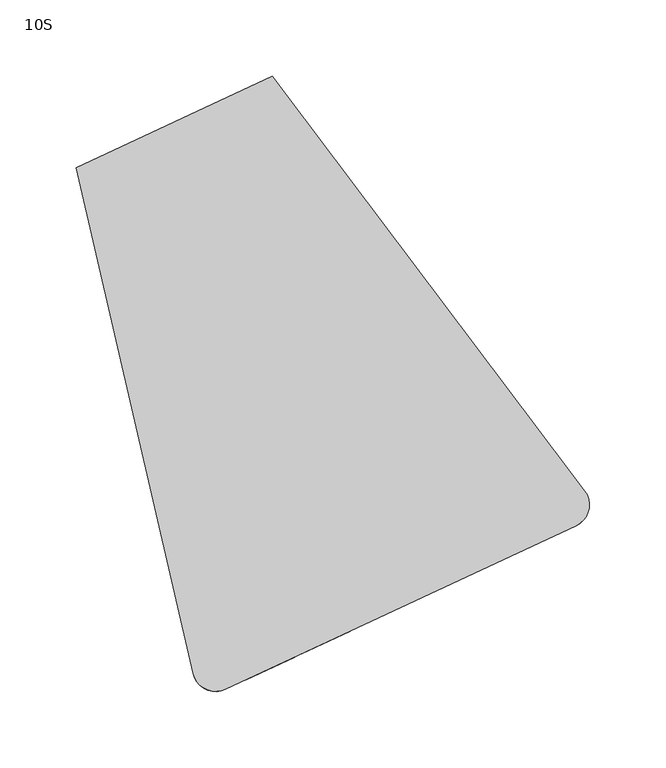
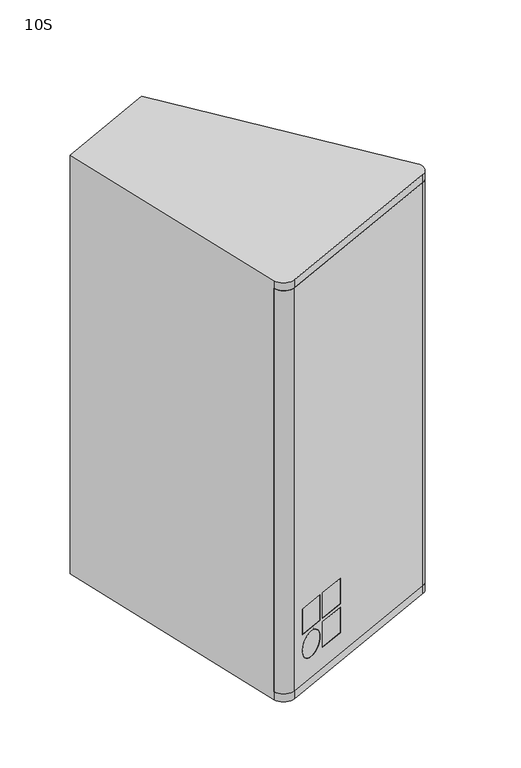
"""IFC4 building model written with IfcOpenShell, lengths in millimetres: proxy geometry, d&b xS-Series 10S Point Source : 10S."""

from ifc_helpers import new_model, si_unit, point, frame, frame_2d, origin, place, context, project, spatial, polyline, circle_curve, trimmed, segment, composite_curve, outline, extrude, source, transform, mapped, element, save
from ifc_brep_helpers import plane_surface, cylinder_surface, revolved_surface, advanced_brep


def proxy_10s_f54c0f71(model_context):
    return source(origin(), model_context, "Body", "SolidModel", [
        extrude(outline(composite_curve([segment(trimmed(circle_curve(frame_2d((182.2455974, -38.5801319)), 10.0), [point((189.5386504, -31.7382479))], [point((186.47178, -47.6432098))], False, "CARTESIAN"), True, "CONTINUOUS"), segment(polyline([(186.47178, -47.6432098), (-42.781571, -154.545803)]), True, "CONTINUOUS"), segment(trimmed(circle_curve(frame_2d((-47.0077536, -145.4827252)), 10.0), [point((-42.781571, -154.545803))], [point((-56.936825, -146.6716496))], False, "CARTESIAN"), True, "CONTINUOUS"), segment(polyline([(-56.936825, -146.6716496), (189.5386504, -31.7382479)]), True, "CONTINUOUS")], self_intersect=False)), frame((0.0, 0.0, -279.0), z_axis=(0.0, 0.0, 1.0), x_axis=(1.0, 0.0, 0.0)), (0.0, 0.0, 1.0), 558.0),
        advanced_brep(
        [(4.6469097, -137.9464289, -175.0), (2.5338184, -133.4148899, -175.0), (2.5338184, -133.4148899, -210.0), (4.6469097, -137.9464289, -210.0), (-29.1869542, -148.2065291, -210.0), (-27.0738629, -152.738068, -210.0), (-29.1869542, -148.2065291, -175.0), (-27.0738629, -152.738068, -175.0), (40.8992212, -121.0416984, -175.0), (38.7861298, -116.5101595, -175.0), (38.7861298, -116.5101595, -210.0), (40.8992212, -121.0416984, -210.0), (7.0653573, -131.3017986, -210.0), (9.1784486, -135.8333376, -210.0), (7.0653573, -131.3017986, -175.0), (9.1784486, -135.8333376, -175.0), (40.8992212, -121.0416984, -215.0), (38.7861298, -116.5101595, -215.0), (38.7861298, -116.5101595, -250.0), (40.8992212, -121.0416984, -250.0), (7.0653573, -131.3017986, -250.0), (9.1784486, -135.8333376, -250.0), (7.0653573, -131.3017986, -215.0), (9.1784486, -135.8333376, -215.0), (-11.2134766, -145.3422485, -250.0), (-13.3265679, -140.8107095, -250.0), (-13.3265679, -140.8107095, -215.0), (-11.2134766, -145.3422485, -215.0), (-40.6684797, -159.077342, 279.0), (188.5848713, -52.1747487, 279.0), (194.22513, -29.5529066, 279.0), (189.5386504, -31.7382479, 279.0), (186.47178, -47.6432098, 279.0), (-42.781571, -154.545803, 279.0), (-56.936825, -146.6716496, 279.0), (-61.6233046, -148.856991, 279.0), (-40.6684797, -159.077342, -279.0), (-61.6233046, -148.856991, -279.0), (-56.936825, -146.6716496, -279.0), (-42.781571, -154.545803, -279.0), (186.47178, -47.6432098, -279.0), (189.5386504, -31.7382479, -279.0), (194.22513, -29.5529066, -279.0), (188.5848713, -52.1747487, -279.0)],
        [
            (0, 1),
            (1, 2),
            (2, 3),
            (3, 0),
            (2, 4),
            (4, 5),
            (5, 3),
            (4, 6),
            (6, 7),
            (7, 5),
            (0, 7),
            (6, 1),
            (8, 9),
            (9, 10),
            (10, 11),
            (11, 8),
            (10, 12),
            (12, 13),
            (13, 11),
            (12, 14),
            (14, 15),
            (15, 13),
            (8, 15),
            (14, 9),
            (16, 17),
            (17, 18),
            (18, 19),
            (19, 16),
            (18, 20),
            (20, 21),
            (21, 19),
            (20, 22),
            (22, 23),
            (23, 21),
            (16, 23),
            (22, 17),
            (24, 25),
            (25, 26, circle_curve(frame((-13.3265679, -140.8107095, -232.5), z_axis=(-0.4226182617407, 0.9063077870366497, 0.0), x_axis=(0.0, 0.0, 1.0)), 17.5)),
            (26, 27),
            (27, 24, circle_curve(frame((-11.2134766, -145.3422485, -232.5), z_axis=(0.4226182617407, -0.9063077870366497, 0.0), x_axis=(0.0, 0.0, 1.0)), 17.5)),
            (24, 27, circle_curve(frame((-11.2134766, -145.3422485, -232.5), z_axis=(0.4226182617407, -0.9063077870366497, 0.0), x_axis=(0.0, 0.0, 1.0)), 17.5)),
            (26, 25, circle_curve(frame((-13.3265679, -140.8107095, -232.5), z_axis=(-0.4226182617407, 0.9063077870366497, 0.0), x_axis=(0.0, 0.0, 1.0)), 17.5)),
            (28, 29),
            (29, 30, circle_curve(frame((182.2455974, -38.5801319, 279.0), z_axis=(0.0, 0.0, 1.0), x_axis=(0.4226182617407, -0.9063077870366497, 0.0)), 15.0)),
            (30, 31),
            (31, 32, circle_curve(frame((182.2455974, -38.5801319, 279.0), z_axis=(0.0, 0.0, -1.0), x_axis=(0.4226182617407, -0.9063077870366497, 0.0)), 10.0)),
            (32, 33),
            (33, 34, circle_curve(frame((-47.0077536, -145.4827252, 279.0), z_axis=(0.0, 0.0, -1.0), x_axis=(0.4226182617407, -0.9063077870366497, 0.0)), 10.0)),
            (34, 35),
            (35, 28, circle_curve(frame((-47.0077536, -145.4827252, 279.0), z_axis=(0.0, 0.0, 1.0), x_axis=(0.4226182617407, -0.9063077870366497, 0.0)), 15.0)),
            (36, 37, circle_curve(frame((-47.0077536, -145.4827252, -279.0), z_axis=(0.0, 0.0, -1.0), x_axis=(0.4226182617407, -0.9063077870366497, 0.0)), 15.0)),
            (37, 38),
            (38, 39, circle_curve(frame((-47.0077536, -145.4827252, -279.0), z_axis=(0.0, 0.0, 1.0), x_axis=(0.4226182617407, -0.9063077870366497, 0.0)), 10.0)),
            (39, 40),
            (40, 41, circle_curve(frame((182.2455974, -38.5801319, -279.0), z_axis=(0.0, 0.0, 1.0), x_axis=(0.4226182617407, -0.9063077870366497, 0.0)), 10.0)),
            (41, 42),
            (42, 43, circle_curve(frame((182.2455974, -38.5801319, -279.0), z_axis=(0.0, 0.0, -1.0), x_axis=(0.4226182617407, -0.9063077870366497, 0.0)), 15.0)),
            (43, 36),
            (28, 36),
            (43, 29),
            (42, 30),
            (41, 31),
            (40, 32),
            (39, 33),
            (38, 34),
            (37, 35),
        ],
        [
            plane_surface(frame((4.6469097, -137.9464289, -210.0), z_axis=(-0.9063077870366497, -0.4226182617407, 0.0), x_axis=(-0.4226182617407, 0.9063077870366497, 0.0))),
            plane_surface(frame((-27.0738629, -152.738068, -210.0), z_axis=(0.0, 0.0, 1.0), x_axis=(-0.4226182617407, 0.9063077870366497, 0.0))),
            plane_surface(frame((-27.0738629, -152.738068, -175.0), z_axis=(0.9063077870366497, 0.4226182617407, 0.0), x_axis=(-0.4226182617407, 0.9063077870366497, 0.0))),
            plane_surface(frame((4.6469097, -137.9464289, -175.0), z_axis=(0.0, 0.0, -1.0), x_axis=(-0.4226182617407, 0.9063077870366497, 0.0))),
            plane_surface(frame((40.8992212, -121.0416984, -210.0), z_axis=(-0.9063077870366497, -0.4226182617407, 0.0), x_axis=(-0.4226182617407, 0.9063077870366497, 0.0))),
            plane_surface(frame((9.1784486, -135.8333376, -210.0), z_axis=(0.0, 0.0, 1.0), x_axis=(-0.4226182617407, 0.9063077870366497, 0.0))),
            plane_surface(frame((9.1784486, -135.8333376, -175.0), z_axis=(0.9063077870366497, 0.4226182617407, 0.0), x_axis=(-0.4226182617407, 0.9063077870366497, 0.0))),
            plane_surface(frame((40.8992212, -121.0416984, -175.0), z_axis=(0.0, 0.0, -1.0), x_axis=(-0.4226182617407, 0.9063077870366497, 0.0))),
            plane_surface(frame((40.8992212, -121.0416984, -250.0), z_axis=(-0.9063077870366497, -0.4226182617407, 0.0), x_axis=(-0.4226182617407, 0.9063077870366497, 0.0))),
            plane_surface(frame((9.1784486, -135.8333376, -250.0), z_axis=(0.0, 0.0, 1.0), x_axis=(-0.4226182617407, 0.9063077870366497, 0.0))),
            plane_surface(frame((9.1784486, -135.8333376, -215.0), z_axis=(0.9063077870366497, 0.4226182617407, 0.0), x_axis=(-0.4226182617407, 0.9063077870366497, 0.0))),
            plane_surface(frame((40.8992212, -121.0416984, -215.0), z_axis=(0.0, 0.0, -1.0), x_axis=(-0.4226182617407, 0.9063077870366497, 0.0))),
            revolved_surface(polyline([(-11.213476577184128, -145.3422484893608, -215.0), (-13.326567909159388, -140.8107095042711, -215.0)]), (-25.0551932, -115.6585914, -232.5), (0.4226182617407, -0.9063077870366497, 0.0)),
            plane_surface(frame((188.5848713, -52.1747487, 279.0), z_axis=(0.0, 0.0, 1.0), x_axis=(0.9063077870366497, 0.4226182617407, 0.0))),
            plane_surface(frame((188.5848713, -52.1747487, -279.0), z_axis=(0.0, 0.0, -1.0), x_axis=(-0.9063077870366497, -0.4226182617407, 0.0))),
            plane_surface(frame((-40.6684797, -159.077342, 279.0), z_axis=(0.4226182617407, -0.9063077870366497, 0.0), x_axis=(0.0, 0.0, -1.0))),
            cylinder_surface(frame((182.2455974, -38.5801319, -279.0), z_axis=(0.0, 0.0, 1.0), x_axis=(0.4226182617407, -0.9063077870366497, 0.0)), 15.0),
            plane_surface(frame((194.22513, -29.5529066, 279.0), z_axis=(-0.42261826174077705, 0.9063077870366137, 0.0), x_axis=(0.0, 0.0, -1.0))),
            revolved_surface(polyline([(186.471780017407, -47.6432097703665, -279.0), (186.471780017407, -47.6432097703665, 279.0)]), (182.2455974, -38.5801319, -279.0), (0.0, 0.0, -1.0)),
            plane_surface(frame((186.47178, -47.6432098, 279.0), z_axis=(-0.4226182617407, 0.9063077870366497, 0.0), x_axis=(0.0, 0.0, -1.0))),
            revolved_surface(polyline([(-42.781570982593, -154.5458030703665, -279.0), (-42.781570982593, -154.5458030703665, 279.0)]), (-47.0077536, -145.4827252, -279.0), (0.0, 0.0, -1.0)),
            plane_surface(frame((-56.936825, -146.6716496, 279.0), z_axis=(-0.4226182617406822, 0.906307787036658, 0.0), x_axis=(0.0, 0.0, -1.0))),
            cylinder_surface(frame((-47.0077536, -145.4827252, -279.0), z_axis=(0.0, 0.0, 1.0), x_axis=(0.4226182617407, -0.9063077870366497, 0.0)), 15.0),
        ],
        [
            (0, [[1, 2, 3, 4]]),
            (1, [[-3, 5, 6, 7]]),
            (2, [[-6, 8, 9, 10]]),
            (3, [[-1, 11, -9, 12]]),
            (4, [[13, 14, 15, 16]]),
            (5, [[-15, 17, 18, 19]]),
            (6, [[-18, 20, 21, 22]]),
            (7, [[-13, 23, -21, 24]]),
            (8, [[25, 26, 27, 28]]),
            (9, [[-27, 29, 30, 31]]),
            (10, [[-30, 32, 33, 34]]),
            (11, [[-25, 35, -33, 36]]),
            (12, [[37, 38, 39, 40]]),
            (12, [[-37, 41, -39, 42]]),
            (13, [[43, 44, 45, 46, 47, 48, 49, 50]]),
            (14, [[51, 52, 53, 54, 55, 56, 57, 58]]),
            (15, [[-43, 59, -58, 60], [-4, -7, -10, -11], [-16, -19, -22, -23], [-28, -31, -34, -35], [-40, -41]]),
            (16, [[-44, -60, -57, 61]]),
            (17, [[-45, -61, -56, 62]]),
            (18, [[-46, -62, -55, 63]]),
            (19, [[-47, -63, -54, 64], [-2, -12, -8, -5], [-14, -24, -20, -17], [-26, -36, -32, -29], [-38, -42]]),
            (20, [[-48, -64, -53, 65]]),
            (21, [[-49, -65, -52, 66]]),
            (22, [[-50, -66, -51, -59]]),
        ],
    ),
        extrude(outline(polyline([(4.6469097, -137.9464289), (-27.0738629, -152.738068), (-29.1869542, -148.2065291), (2.5338184, -133.4148899), (4.6469097, -137.9464289)])), frame((0.0, 0.0, -210.0), z_axis=(0.0, 0.0, 1.0), x_axis=(1.0, 0.0, 0.0)), (0.0, 0.0, 1.0), 35.0),
        extrude(outline(polyline([(40.8992212, -121.0416984), (9.1784486, -135.8333376), (7.0653573, -131.3017986), (38.7861298, -116.5101595), (40.8992212, -121.0416984)])), frame((0.0, 0.0, -210.0), z_axis=(0.0, 0.0, 1.0), x_axis=(1.0, 0.0, 0.0)), (0.0, 0.0, 1.0), 35.0),
        extrude(outline(polyline([(40.8992212, -121.0416984), (9.1784486, -135.8333376), (7.0653573, -131.3017986), (38.7861298, -116.5101595), (40.8992212, -121.0416984)])), frame((0.0, 0.0, -250.0), z_axis=(0.0, 0.0, 1.0), x_axis=(1.0, 0.0, 0.0)), (0.0, 0.0, 1.0), 35.0),
        extrude(outline(composite_curve([segment(trimmed(circle_curve(frame_2d((-12.4999999, -57.5)), 17.5), [point((-12.4999999, -75.0))], [point((-12.4999999, -40.0))], False, "CARTESIAN"), True, "CONTINUOUS"), segment(trimmed(circle_curve(frame_2d((-12.4999999, -57.5)), 17.5), [point((-12.4999999, -40.0))], [point((-12.4999999, -75.0))], False, "CARTESIAN"), True, "CONTINUOUS")], self_intersect=False)), frame((-22.5423239, -150.6249767, -175.0), z_axis=(-0.4226182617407, 0.9063077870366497, 0.0), x_axis=(-0.9063077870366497, -0.4226182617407, 0.0)), (0.0, 0.0, 1.0), 5.0),
        advanced_brep(
        [(-61.6233046, -148.856991, -290.0), (-137.9482415, 181.7426318, -290.0), (-9.9681501, 241.4207284, -290.0), (194.22513, -29.5529066, -290.0), (188.5848713, -52.1747487, -290.0), (-40.6684797, -159.077342, -290.0), (194.22513, -29.5529066, 290.0), (-9.9681501, 241.4207284, 290.0), (-137.9482415, 181.7426318, 290.0), (-61.6233046, -148.856991, 290.0), (-40.6684797, -159.077342, 290.0), (188.5848713, -52.1747487, 290.0), (-104.4111136, 194.0711176, 126.0), (-96.2543435, 197.8746819, 135.0), (-49.1263386, 219.8508316, 135.0), (-40.9695685, 223.6543959, 126.0), (-40.9695685, 223.6543959, 14.0), (-49.1263386, 219.8508316, 5.0), (-96.2543435, 197.8746819, 5.0), (-104.4111136, 194.0711176, 14.0), (-96.2267302, 197.8875582, 23.0304679), (-85.3510368, 202.9589774, 11.0304679), (-60.0296453, 214.7665361, 11.0304679), (-49.1539518, 219.8379553, 23.0304679), (-49.1539518, 219.8379553, 95.9695321), (-60.0296453, 214.7665361, 107.9695321), (-85.3510368, 202.9589774, 107.9695321), (-96.2267302, 197.8875582, 95.9695321), (-105.6789684, 196.790041, 126.0), (-97.5221983, 200.5936053, 135.0), (-50.3941933, 222.5697549, 135.0), (-42.2374233, 226.3733193, 126.0), (-42.2374233, 226.3733193, 14.0), (-50.3941933, 222.5697549, 5.0), (-97.5221983, 200.5936053, 5.0), (-105.6789684, 196.790041, 14.0), (-78.5891446, 188.4580528, 11.0304679), (-89.464838, 183.3866336, 23.0304679), (-89.464838, 183.3866336, 95.9695321), (-78.5891446, 188.4580528, 107.9695321), (-53.2677531, 200.2656115, 107.9695321), (-42.3920596, 205.3370307, 95.9695321), (-42.3920596, 205.3370307, 23.0304679), (-53.2677531, 200.2656115, 11.0304679), (194.22513, -29.5529066, 279.0), (188.5848713, -52.1747487, 279.0), (-40.6684797, -159.077342, 279.0), (-61.6233046, -148.856991, 279.0), (-61.6233046, -148.856991, -279.0), (-40.6684797, -159.077342, -279.0), (188.5848713, -52.1747487, -279.0), (194.22513, -29.5529066, -279.0)],
        [
            (0, 1),
            (1, 2),
            (2, 3),
            (3, 4, circle_curve(frame((182.2455974, -38.5801319, -290.0), z_axis=(0.0, 0.0, -1.0), x_axis=(0.4226182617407, -0.9063077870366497, 0.0)), 15.0)),
            (4, 5),
            (5, 0, circle_curve(frame((-47.0077536, -145.4827252, -290.0), z_axis=(0.0, 0.0, -1.0), x_axis=(0.4226182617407, -0.9063077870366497, 0.0)), 15.0)),
            (6, 7),
            (7, 8),
            (8, 9),
            (9, 10, circle_curve(frame((-47.0077536, -145.4827252, 290.0), z_axis=(0.0, 0.0, 1.0), x_axis=(0.4226182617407, -0.9063077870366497, 0.0)), 15.0)),
            (10, 11),
            (11, 6, circle_curve(frame((182.2455974, -38.5801319, 290.0), z_axis=(0.0, 0.0, 1.0), x_axis=(0.4226182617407, -0.9063077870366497, 0.0)), 15.0)),
            (12, 13, circle_curve(frame((-96.2543435, 197.8746819, 126.0), z_axis=(-0.42261826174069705, 0.906307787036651, 0.0), x_axis=(-0.906307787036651, -0.42261826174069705, 0.0)), 9.0)),
            (13, 14),
            (14, 15, circle_curve(frame((-49.1263386, 219.8508316, 126.0), z_axis=(-0.42261826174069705, 0.906307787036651, 0.0), x_axis=(-0.906307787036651, -0.42261826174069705, 0.0)), 9.0)),
            (15, 16),
            (16, 17, circle_curve(frame((-49.1263386, 219.8508316, 14.0), z_axis=(-0.42261826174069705, 0.906307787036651, 0.0), x_axis=(-0.906307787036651, -0.42261826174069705, 0.0)), 9.0)),
            (17, 18),
            (18, 19, circle_curve(frame((-96.2543435, 197.8746819, 14.0), z_axis=(-0.42261826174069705, 0.906307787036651, 0.0), x_axis=(-0.906307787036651, -0.42261826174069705, 0.0)), 9.0)),
            (19, 12),
            (20, 21, circle_curve(frame((-85.3510368, 202.9589774, 23.0304679), z_axis=(0.42261826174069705, -0.906307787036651, 0.0), x_axis=(-0.906307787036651, -0.42261826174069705, 0.0)), 12.0)),
            (21, 22),
            (22, 23, circle_curve(frame((-60.0296453, 214.7665361, 23.0304679), z_axis=(0.42261826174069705, -0.906307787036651, 0.0), x_axis=(-0.906307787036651, -0.42261826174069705, 0.0)), 12.0)),
            (23, 24),
            (24, 25, circle_curve(frame((-60.0296453, 214.7665361, 95.9695321), z_axis=(0.42261826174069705, -0.906307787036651, 0.0), x_axis=(-0.906307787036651, -0.42261826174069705, 0.0)), 12.0)),
            (25, 26),
            (26, 27, circle_curve(frame((-85.3510368, 202.9589774, 95.9695321), z_axis=(0.42261826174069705, -0.906307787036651, 0.0), x_axis=(-0.906307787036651, -0.42261826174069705, 0.0)), 12.0)),
            (27, 20),
            (12, 28),
            (28, 29, circle_curve(frame((-97.5221983, 200.5936053, 126.0), z_axis=(-0.42261826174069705, 0.906307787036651, 0.0), x_axis=(-0.906307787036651, -0.42261826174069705, 0.0)), 9.0)),
            (29, 13),
            (29, 30),
            (30, 14),
            (30, 31, circle_curve(frame((-50.3941933, 222.5697549, 126.0), z_axis=(-0.42261826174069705, 0.906307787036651, 0.0), x_axis=(-0.906307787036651, -0.42261826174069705, 0.0)), 9.0)),
            (31, 15),
            (31, 32),
            (32, 16),
            (32, 33, circle_curve(frame((-50.3941933, 222.5697549, 14.0), z_axis=(-0.42261826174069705, 0.906307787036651, 0.0), x_axis=(-0.906307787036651, -0.42261826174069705, 0.0)), 9.0)),
            (33, 17),
            (33, 34),
            (34, 18),
            (34, 35, circle_curve(frame((-97.5221983, 200.5936053, 14.0), z_axis=(-0.42261826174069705, 0.906307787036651, 0.0), x_axis=(-0.906307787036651, -0.42261826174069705, 0.0)), 9.0)),
            (35, 19),
            (35, 28),
            (36, 37, circle_curve(frame((-78.5891446, 188.4580528, 23.0304679), z_axis=(-0.42261826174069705, 0.906307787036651, 0.0), x_axis=(-0.906307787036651, -0.42261826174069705, 0.0)), 12.0)),
            (37, 38),
            (38, 39, circle_curve(frame((-78.5891446, 188.4580528, 95.9695321), z_axis=(-0.42261826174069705, 0.906307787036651, 0.0), x_axis=(-0.906307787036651, -0.42261826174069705, 0.0)), 12.0)),
            (39, 40),
            (40, 41, circle_curve(frame((-53.2677531, 200.2656115, 95.9695321), z_axis=(-0.42261826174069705, 0.906307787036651, 0.0), x_axis=(-0.906307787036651, -0.42261826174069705, 0.0)), 12.0)),
            (41, 42),
            (42, 43, circle_curve(frame((-53.2677531, 200.2656115, 23.0304679), z_axis=(-0.42261826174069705, 0.906307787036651, 0.0), x_axis=(-0.906307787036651, -0.42261826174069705, 0.0)), 12.0)),
            (43, 36),
            (44, 45, circle_curve(frame((182.2455974, -38.5801319, 279.0), z_axis=(0.0, 0.0, -1.0), x_axis=(0.4226182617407, -0.9063077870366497, 0.0)), 15.0)),
            (45, 46),
            (46, 47, circle_curve(frame((-47.0077536, -145.4827252, 279.0), z_axis=(0.0, 0.0, -1.0), x_axis=(0.4226182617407, -0.9063077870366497, 0.0)), 15.0)),
            (47, 44),
            (48, 49, circle_curve(frame((-47.0077536, -145.4827252, -279.0), z_axis=(0.0, 0.0, 1.0), x_axis=(0.4226182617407, -0.9063077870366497, 0.0)), 15.0)),
            (49, 50),
            (50, 51, circle_curve(frame((182.2455974, -38.5801319, -279.0), z_axis=(0.0, 0.0, 1.0), x_axis=(0.4226182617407, -0.9063077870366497, 0.0)), 15.0)),
            (51, 48),
            (0, 48),
            (48, 47),
            (47, 9),
            (8, 1),
            (7, 2),
            (6, 44),
            (44, 51),
            (51, 3),
            (36, 21),
            (20, 37),
            (27, 38),
            (26, 39),
            (25, 40),
            (24, 41),
            (23, 42),
            (22, 43),
            (46, 10),
            (45, 11),
            (5, 49),
            (4, 50),
        ],
        [
            plane_surface(frame((-135.3245367, 170.3781177, -290.0), z_axis=(0.0, 0.0, -1.0000000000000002), x_axis=(-0.22495105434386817, 0.9743700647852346, 0.0))),
            plane_surface(frame((-135.3245367, 170.3781177, 290.0), z_axis=(0.0, 0.0, 1.0000000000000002), x_axis=(0.22495105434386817, -0.9743700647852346, 0.0))),
            plane_surface(frame((-104.4111136, 194.0711176, 126.0), z_axis=(-0.42261826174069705, 0.906307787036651, 0.0), x_axis=(0.0, 0.0, -1.0))),
            revolved_surface(polyline([(-105.67896841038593, 196.79004099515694, 126.0), (-104.41111358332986, 194.07111754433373, 126.0)]), (-96.2543435, 197.8746819, 126.0), (-0.42261826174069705, 0.906307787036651, 0.0)),
            plane_surface(frame((-97.5221983, 200.5936053, 135.0), z_axis=(0.0, 0.0, -1.0), x_axis=(0.4226182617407, -0.9063077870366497, 0.0))),
            revolved_surface(polyline([(-58.550963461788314, 218.766190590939, 126.0), (-57.28310865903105, 216.04726719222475, 126.0)]), (-49.1263386, 219.8508316, 126.0), (-0.42261826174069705, 0.906307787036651, 0.0)),
            plane_surface(frame((-42.2374233, 226.3733193, 126.0), z_axis=(-0.9063077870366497, -0.4226182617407, 0.0), x_axis=(0.4226182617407, -0.9063077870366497, 0.0))),
            revolved_surface(polyline([(-58.550963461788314, 218.766190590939, 14.0), (-57.28310865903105, 216.04726719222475, 14.0)]), (-49.1263386, 219.8508316, 14.0), (-0.42261826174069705, 0.906307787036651, 0.0)),
            plane_surface(frame((-50.3941933, 222.5697549, 5.0), z_axis=(0.0, 0.0, 1.0), x_axis=(0.4226182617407, -0.9063077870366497, 0.0))),
            revolved_surface(polyline([(-105.67896841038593, 196.79004099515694, 14.0), (-104.41111358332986, 194.07111754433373, 14.0)]), (-96.2543435, 197.8746819, 14.0), (-0.42261826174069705, 0.906307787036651, 0.0)),
            plane_surface(frame((-105.6789684, 196.790041, 14.0), z_axis=(0.9063077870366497, 0.4226182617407, 0.0), x_axis=(0.4226182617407, -0.9063077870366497, 0.0))),
            plane_surface(frame((-89.464838, 183.3866336, 23.0304679), z_axis=(-0.42261826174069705, 0.906307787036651, 0.0), x_axis=(0.0, 0.0, -1.0))),
            plane_surface(frame((-40.6684797, -159.077342, 279.0), z_axis=(0.0, 0.0, -1.0), x_axis=(-0.9063077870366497, -0.4226182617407, 0.0))),
            plane_surface(frame((-40.6684797, -159.077342, -279.0), z_axis=(0.0, 0.0, 1.0), x_axis=(0.9063077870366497, 0.4226182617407, 0.0))),
            plane_surface(frame((-61.6233046, -148.856991, -290.0), z_axis=(-0.9743700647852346, -0.22495105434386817, 0.0), x_axis=(0.0, 0.0, 1.0))),
            plane_surface(frame((-137.9482415, 181.7426318, -290.0), z_axis=(-0.4226182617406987, 0.9063077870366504, 0.0), x_axis=(0.0, 0.0, 1.0))),
            plane_surface(frame((-9.9681501, 241.4207284, -290.0), z_axis=(0.7986355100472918, 0.6018150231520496, 0.0), x_axis=(0.0, 0.0, 1.0))),
            plane_surface(frame((194.22513, -29.5529066, -290.0), z_axis=(0.4226182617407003, -0.9063077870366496, 0.0), x_axis=(0.0, 0.0, 1.0))),
            revolved_surface(polyline([(-96.2267302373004, 197.88755826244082, 23.0304679), (-89.46483801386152, 183.3866335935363, 23.0304679)]), (-78.5891446, 188.4580528, 23.0304679), (-0.42261826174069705, 0.906307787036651, 0.0)),
            plane_surface(frame((-97.494585, 200.6064816, 23.0304679), z_axis=(0.9063077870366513, 0.4226182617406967, 0.0), x_axis=(0.4226182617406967, -0.9063077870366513, 0.0))),
            revolved_surface(polyline([(-96.2267302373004, 197.88755826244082, 95.9695321), (-89.46483801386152, 183.3866335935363, 95.9695321)]), (-78.5891446, 188.4580528, 95.9695321), (-0.42261826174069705, 0.906307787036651, 0.0)),
            plane_surface(frame((-86.6188915, 205.6779007, 107.9695321), z_axis=(0.0, 0.0, -1.0), x_axis=(0.4226182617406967, -0.9063077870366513, 0.0))),
            revolved_surface(polyline([(-70.90533875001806, 209.69511698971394, 95.9695321), (-64.14344654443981, 195.19419235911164, 95.9695321)]), (-53.2677531, 200.2656115, 95.9695321), (-0.42261826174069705, 0.906307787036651, 0.0)),
            plane_surface(frame((-50.4218066, 222.5568786, 95.9695321), z_axis=(-0.9063077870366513, -0.4226182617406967, 0.0), x_axis=(0.4226182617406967, -0.9063077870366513, 0.0))),
            revolved_surface(polyline([(-70.90533875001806, 209.69511698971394, 23.0304679), (-64.14344654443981, 195.19419235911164, 23.0304679)]), (-53.2677531, 200.2656115, 23.0304679), (-0.42261826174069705, 0.906307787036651, 0.0)),
            plane_surface(frame((-61.2975001, 217.4854595, 11.0304679), z_axis=(0.0, 0.0, 1.0), x_axis=(0.4226182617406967, -0.9063077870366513, 0.0))),
            cylinder_surface(frame((-47.0077536, -145.4827252, 279.0), z_axis=(0.0, 0.0, 1.0), x_axis=(0.4226182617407, -0.9063077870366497, 0.0)), 15.0),
            plane_surface(frame((-40.6684797, -159.077342, 290.0), z_axis=(0.4226182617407, -0.9063077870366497, 0.0), x_axis=(0.0, 0.0, -1.0))),
            cylinder_surface(frame((182.2455974, -38.5801319, 279.0), z_axis=(0.0, 0.0, 1.0), x_axis=(0.4226182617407, -0.9063077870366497, 0.0)), 15.0),
            cylinder_surface(frame((-47.0077536, -145.4827252, -290.0), z_axis=(0.0, 0.0, 1.0), x_axis=(0.4226182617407, -0.9063077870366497, 0.0)), 15.0),
            plane_surface(frame((-40.6684797, -159.077342, -279.0), z_axis=(0.4226182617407, -0.9063077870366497, 0.0), x_axis=(0.0, 0.0, -1.0))),
            cylinder_surface(frame((182.2455974, -38.5801319, -290.0), z_axis=(0.0, 0.0, 1.0), x_axis=(0.4226182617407, -0.9063077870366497, 0.0)), 15.0),
        ],
        [
            (0, [[1, 2, 3, 4, 5, 6]]),
            (1, [[7, 8, 9, 10, 11, 12]]),
            (2, [[13, 14, 15, 16, 17, 18, 19, 20], [21, 22, 23, 24, 25, 26, 27, 28]]),
            (3, [[-13, 29, 30, 31]]),
            (4, [[-14, -31, 32, 33]]),
            (5, [[-15, -33, 34, 35]]),
            (6, [[-16, -35, 36, 37]]),
            (7, [[-17, -37, 38, 39]]),
            (8, [[-18, -39, 40, 41]]),
            (9, [[-19, -41, 42, 43]]),
            (10, [[-20, -43, 44, -29]]),
            (11, [[45, 46, 47, 48, 49, 50, 51, 52]]),
            (12, [[53, 54, 55, 56]]),
            (13, [[57, 58, 59, 60]]),
            (14, [[-1, 61, 62, 63, -9, 64]]),
            (15, [[-2, -64, -8, 65], [-30, -44, -42, -40, -38, -36, -34, -32]]),
            (16, [[-3, -65, -7, 66, 67, 68]]),
            (17, [[-56, -62, -60, -67]]),
            (18, [[-45, 69, -21, 70]]),
            (19, [[-46, -70, -28, 71]]),
            (20, [[-47, -71, -27, 72]]),
            (21, [[-48, -72, -26, 73]]),
            (22, [[-49, -73, -25, 74]]),
            (23, [[-50, -74, -24, 75]]),
            (24, [[-51, -75, -23, 76]]),
            (25, [[-52, -76, -22, -69]]),
            (26, [[-10, -63, -55, 77]]),
            (27, [[-11, -77, -54, 78]]),
            (28, [[-12, -78, -53, -66]]),
            (29, [[-57, -61, -6, 79]]),
            (30, [[-58, -79, -5, 80]]),
            (31, [[-59, -80, -4, -68]]),
        ],
    ),
    ])


if __name__ == "__main__":
    model = new_model("IFC4")
    model_context = context("Model", 3, world=origin())
    ifc_project = project(units=[si_unit("LENGTHUNIT", "METRE", prefix="MILLI")], contexts=[model_context])
    site = spatial("IfcSite", under=ifc_project)
    building = spatial("IfcBuilding", under=site)
    placement = place(None, origin())
    proxy_10s_shape = proxy_10s_f54c0f71(model_context)
    element("IfcBuildingElementProxy", 1, Name="d&b xS-Series 10S Point Source : 10S", ObjectType="d&b xS-Series 10S Point Source : 10S", at=placement, inside=building, context=model_context, shape_type="MappedRepresentation", body=[
        mapped(proxy_10s_shape, transform((0.0, 0.0, 0.0), x_axis=(1.0, 0.0, 0.0), y_axis=(0.0, 1.0, 0.0), z_axis=(0.0, 0.0, 1.0))),
    ])
    save(model, "model.ifc")
